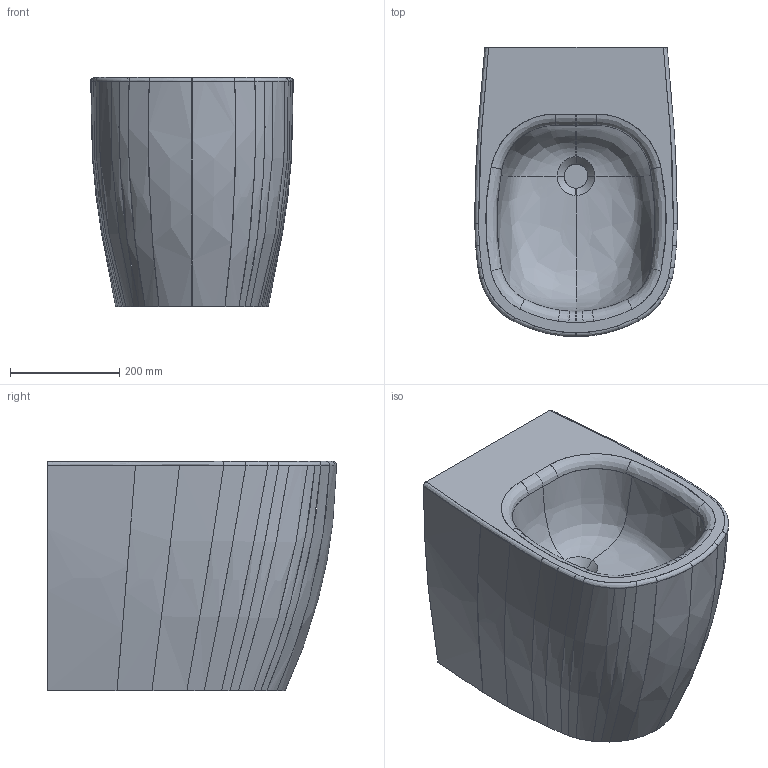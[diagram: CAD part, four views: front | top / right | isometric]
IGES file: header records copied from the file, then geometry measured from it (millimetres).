
Start section: START RECORD GO HERE.
Global section: file name: C:\Users\DE NITTO FULVIO\Desktop\Nic\2017\Maggio\Collezione Ovvio\Ovvio Bidet Terra\Modello 3D\Ovvio Bidet Terra.igs; native system: Rhinoceros ( Oct 24 2012 ); preprocessor: Trout Lake IGES 012 Oct 24 2012; date: 170503.080119; units: millimetre
Bounding box: 371.08 x 529.97 x 420.01 mm (x, y, z)
Surface area: 1030972.3 mm2 (no closed solid volume)
Topology: 0 solids, 0 shells, 80 faces, 457 edges, 457 vertices
Faces by surface type: bspline 80
